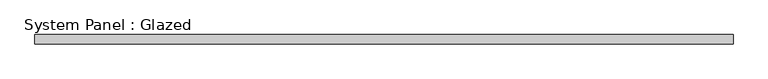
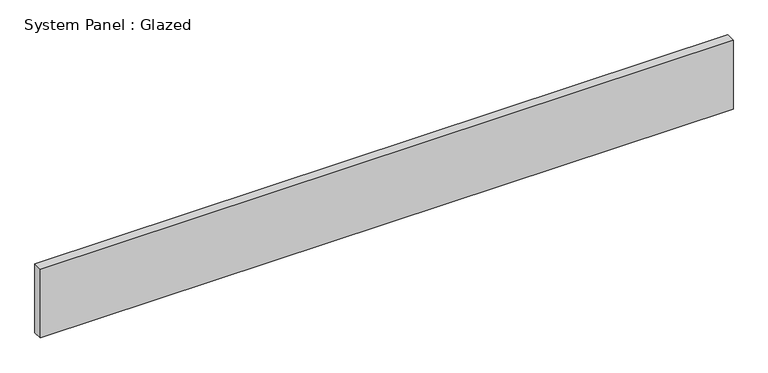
"""IFC4 building model written with IfcOpenShell, lengths in millimetres: plate geometry, System Panel : Glazed."""

from ifc_helpers import new_model, si_unit, origin, origin_with_axes, place, context, project, spatial, polyline, outline, extrude, source, transform, mapped, element, save


def system_panel_glazed_14487ba2(model_context):
    return source(origin(), model_context, "Body", "SweptSolid", [
        extrude(outline(polyline([(915.0, -49.5), (-915.0, -49.5), (-915.0, -24.5), (915.0, -24.5), (915.0, -49.5)])), origin_with_axes(), (0.0, 0.0, 1.0), 192.0),
    ])


if __name__ == "__main__":
    model = new_model("IFC4")
    model_context = context("Model", 3, world=origin())
    ifc_project = project(units=[si_unit("LENGTHUNIT", "METRE", prefix="MILLI")], contexts=[model_context])
    site = spatial("IfcSite", under=ifc_project)
    building = spatial("IfcBuilding", under=site)
    placement = place(None, origin())
    system_panel_glazed_shape = system_panel_glazed_14487ba2(model_context)
    element("IfcPlate", 1, ObjectType="System Panel : Glazed", at=placement, inside=building, context=model_context, shape_type="MappedRepresentation", body=[
        mapped(system_panel_glazed_shape, transform((0.0, 0.0, 0.0), x_axis=(1.0, 0.0, 0.0), y_axis=(0.0, 1.0, 0.0), z_axis=(0.0, 0.0, 1.0))),
    ])
    save(model, "model.ifc")
